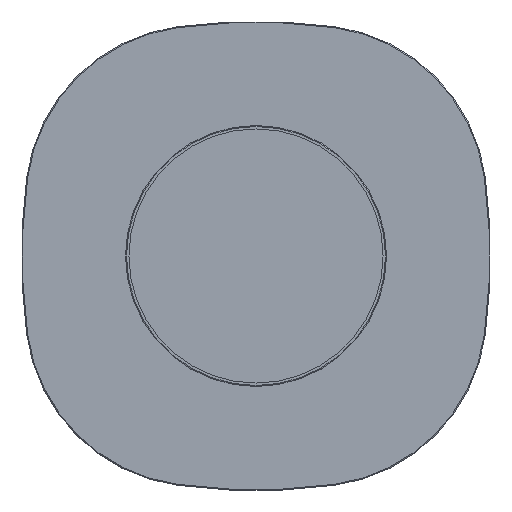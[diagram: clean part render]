
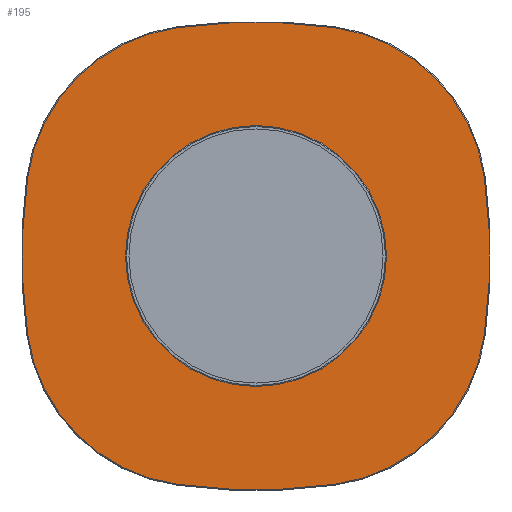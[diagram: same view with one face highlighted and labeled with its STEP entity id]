
A CAD part, front view. The second image highlights one B-rep face of the part: STEP entity #195.
In plain terms, the highlighted planar face has unit normal (0, -1, 0).
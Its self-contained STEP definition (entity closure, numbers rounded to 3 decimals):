
#105=CARTESIAN_POINT('',(0.,857.451,0.));
#106=DIRECTION('',(0.0,1.0,0.0));
#107=DIRECTION('',(0.0,0.0,-1.0));
#108=AXIS2_PLACEMENT_3D('',#105,#106,#107);
#109=PLANE('',#108);
#110=CARTESIAN_POINT('',(233.625,857.451,80.135));
#111=VERTEX_POINT('',#110);
#112=CARTESIAN_POINT('',(233.625,857.451,-80.135));
#113=VERTEX_POINT('',#112);
#114=CARTESIAN_POINT('',(-361.,857.451,0.));
#115=DIRECTION('',(0.,1.0,0.));
#116=DIRECTION('',(0.991,0.,0.134));
#117=AXIS2_PLACEMENT_3D('',#114,#115,#116);
#118=CIRCLE('',#117,600.0);
#119=EDGE_CURVE('',#111,#113,#118,.T.);
#120=ORIENTED_EDGE('',*,*,#119,.F.);
#121=CARTESIAN_POINT('',(80.135,857.451,233.625));
#122=VERTEX_POINT('',#121);
#123=CARTESIAN_POINT('',(56.228,857.451,56.228));
#124=DIRECTION('',(0.,1.0,0.));
#125=DIRECTION('',(0.134,0.,0.991));
#126=AXIS2_PLACEMENT_3D('',#123,#124,#125);
#127=CIRCLE('',#126,179.);
#128=EDGE_CURVE('',#122,#111,#127,.T.);
#129=ORIENTED_EDGE('',*,*,#128,.F.);
#130=CARTESIAN_POINT('',(-80.135,857.451,233.625));
#131=VERTEX_POINT('',#130);
#132=CARTESIAN_POINT('',(0.,857.451,-361.0));
#133=DIRECTION('',(0.,1.0,0.));
#134=DIRECTION('',(-0.134,0.,0.991));
#135=AXIS2_PLACEMENT_3D('',#132,#133,#134);
#136=CIRCLE('',#135,600.0);
#137=EDGE_CURVE('',#131,#122,#136,.T.);
#138=ORIENTED_EDGE('',*,*,#137,.F.);
#139=CARTESIAN_POINT('',(-233.625,857.451,80.135));
#140=VERTEX_POINT('',#139);
#141=CARTESIAN_POINT('',(-56.228,857.451,56.228));
#142=DIRECTION('',(0.,1.0,0.));
#143=DIRECTION('',(-0.991,0.,0.134));
#144=AXIS2_PLACEMENT_3D('',#141,#142,#143);
#145=CIRCLE('',#144,179.);
#146=EDGE_CURVE('',#140,#131,#145,.T.);
#147=ORIENTED_EDGE('',*,*,#146,.F.);
#148=CARTESIAN_POINT('',(-233.625,857.451,-80.135));
#149=VERTEX_POINT('',#148);
#150=CARTESIAN_POINT('',(361.,857.451,0.));
#151=DIRECTION('',(0.,1.0,0.));
#152=DIRECTION('',(-0.991,0.,-0.134));
#153=AXIS2_PLACEMENT_3D('',#150,#151,#152);
#154=CIRCLE('',#153,600.0);
#155=EDGE_CURVE('',#149,#140,#154,.T.);
#156=ORIENTED_EDGE('',*,*,#155,.F.);
#157=CARTESIAN_POINT('',(-80.135,857.451,-233.625));
#158=VERTEX_POINT('',#157);
#159=CARTESIAN_POINT('',(-56.228,857.451,-56.228));
#160=DIRECTION('',(0.,1.0,0.));
#161=DIRECTION('',(-0.134,0.,-0.991));
#162=AXIS2_PLACEMENT_3D('',#159,#160,#161);
#163=CIRCLE('',#162,179.);
#164=EDGE_CURVE('',#158,#149,#163,.T.);
#165=ORIENTED_EDGE('',*,*,#164,.F.);
#166=CARTESIAN_POINT('',(80.135,857.451,-233.625));
#167=VERTEX_POINT('',#166);
#168=CARTESIAN_POINT('',(0.,857.451,361.0));
#169=DIRECTION('',(0.,1.0,0.));
#170=DIRECTION('',(0.134,0.,-0.991));
#171=AXIS2_PLACEMENT_3D('',#168,#169,#170);
#172=CIRCLE('',#171,600.0);
#173=EDGE_CURVE('',#167,#158,#172,.T.);
#174=ORIENTED_EDGE('',*,*,#173,.F.);
#175=CARTESIAN_POINT('',(56.228,857.451,-56.228));
#176=DIRECTION('',(0.,1.0,0.));
#177=DIRECTION('',(0.991,0.,-0.134));
#178=AXIS2_PLACEMENT_3D('',#175,#176,#177);
#179=CIRCLE('',#178,179.);
#180=EDGE_CURVE('',#113,#167,#179,.T.);
#181=ORIENTED_EDGE('',*,*,#180,.F.);
#182=EDGE_LOOP('',(#120,#129,#138,#147,#156,#165,#174,#181));
#183=FACE_OUTER_BOUND('',#182,.T.);
#184=CARTESIAN_POINT('',(0.,857.451,-19.75));
#185=VERTEX_POINT('',#184);
#186=CARTESIAN_POINT('',(0.,857.451,0.));
#187=DIRECTION('',(0.0,-1.0,0.0));
#188=DIRECTION('',(0.0,0.0,1.0));
#189=AXIS2_PLACEMENT_3D('',#186,#187,#188);
#190=CIRCLE('',#189,19.75);
#191=EDGE_CURVE('',#185,#185,#190,.T.);
#192=ORIENTED_EDGE('',*,*,#191,.F.);
#193=EDGE_LOOP('',(#192));
#194=FACE_BOUND('',#193,.T.);
#195=ADVANCED_FACE('',(#183,#194),#109,.F.);
